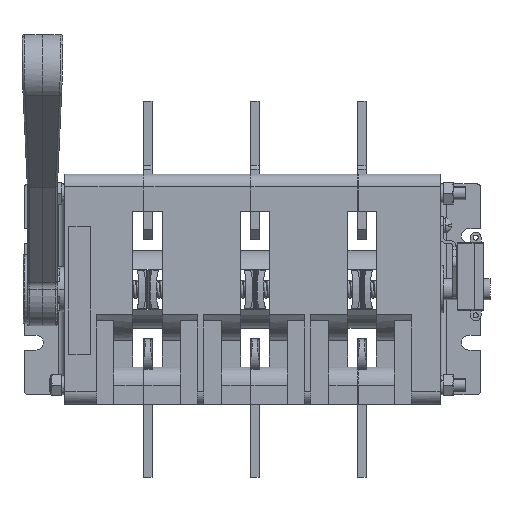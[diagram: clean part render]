
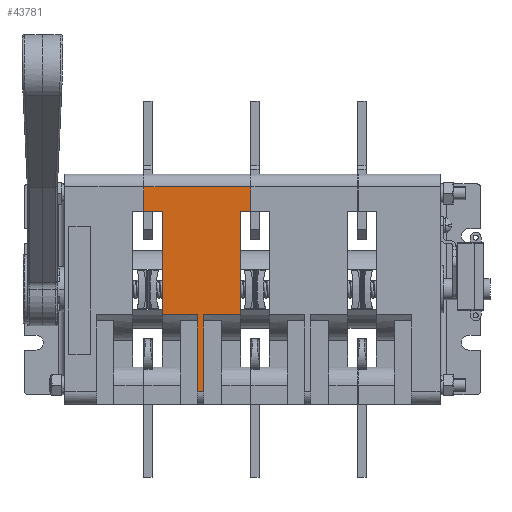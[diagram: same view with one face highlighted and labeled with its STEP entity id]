
A CAD part, front view. The second image highlights one B-rep face of the part: STEP entity #43781.
In plain terms, the highlighted planar face has unit normal (0, -1, 0) as drawn and (0, 1, 0) by its records, which use the part's own axes.
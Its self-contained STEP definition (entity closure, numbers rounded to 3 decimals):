
#357 = VERTEX_POINT ( 'NONE', #14577 ) ;
#725 = CARTESIAN_POINT ( 'NONE',  ( 36.5, 24., -8.5 ) ) ;
#1628 = EDGE_CURVE ( 'NONE', #27581, #7520, #3370, .T. ) ;
#1674 = VECTOR ( 'NONE', #21524, 1000. ) ;
#1944 = VERTEX_POINT ( 'NONE', #23049 ) ;
#1991 = CARTESIAN_POINT ( 'NONE',  ( -48., 24., 19.5 ) ) ;
#3068 = VERTEX_POINT ( 'NONE', #47064 ) ;
#3370 = LINE ( 'NONE', #21072, #38662 ) ;
#5719 = ORIENTED_EDGE ( 'NONE', *, *, #28771, .F. ) ;
#6962 = VERTEX_POINT ( 'NONE', #36617 ) ;
#7139 = VERTEX_POINT ( 'NONE', #26369 ) ;
#7470 = CARTESIAN_POINT ( 'NONE',  ( 36.5, 24., 0. ) ) ;
#7520 = VERTEX_POINT ( 'NONE', #50838 ) ;
#8930 = LINE ( 'NONE', #38512, #52870 ) ;
#9831 = VERTEX_POINT ( 'NONE', #40922 ) ;
#10416 = DIRECTION ( 'NONE',  ( 0., 0., 1. ) ) ;
#10523 = EDGE_CURVE ( 'NONE', #357, #19052, #41750, .T. ) ;
#10716 = ORIENTED_EDGE ( 'NONE', *, *, #42778, .T. ) ;
#10963 = ORIENTED_EDGE ( 'NONE', *, *, #35267, .F. ) ;
#11852 = ORIENTED_EDGE ( 'NONE', *, *, #40776, .F. ) ;
#12071 = CARTESIAN_POINT ( 'NONE',  ( -48., 24., 16.5 ) ) ;
#12755 = DIRECTION ( 'NONE',  ( 0., -1., 0. ) ) ;
#13945 = DIRECTION ( 'NONE',  ( 0., 0., -1. ) ) ;
#14116 = CARTESIAN_POINT ( 'NONE',  ( 48., 24., -8.5 ) ) ;
#14577 = CARTESIAN_POINT ( 'NONE',  ( 48., 24., 41.5 ) ) ;
#15336 = ORIENTED_EDGE ( 'NONE', *, *, #20229, .F. ) ;
#16330 = AXIS2_PLACEMENT_3D ( 'NONE', #42338, #12755, #42524 ) ;
#16571 = VECTOR ( 'NONE', #22706, 1000. ) ;
#16659 = VECTOR ( 'NONE', #13945, 1000. ) ;
#17053 = EDGE_CURVE ( 'NONE', #6962, #3068, #45471, .T. ) ;
#17176 = DIRECTION ( 'NONE',  ( 0., 0., -1. ) ) ;
#17340 = VECTOR ( 'NONE', #37245, 1000. ) ;
#18844 = DIRECTION ( 'NONE',  ( 1., 0., 0. ) ) ;
#19052 = VERTEX_POINT ( 'NONE', #14116 ) ;
#19765 = VECTOR ( 'NONE', #27261, 1000. ) ;
#20229 = EDGE_CURVE ( 'NONE', #48807, #6962, #49218, .T. ) ;
#20467 = DIRECTION ( 'NONE',  ( -1., 0., 0. ) ) ;
#20650 = LINE ( 'NONE', #7470, #17340 ) ;
#20876 = ORIENTED_EDGE ( 'NONE', *, *, #53201, .F. ) ;
#21072 = CARTESIAN_POINT ( 'NONE',  ( -48., 24., 19.5 ) ) ;
#21524 = DIRECTION ( 'NONE',  ( -1., 0., 0. ) ) ;
#21749 = LINE ( 'NONE', #48911, #34388 ) ;
#21972 = CARTESIAN_POINT ( 'NONE',  ( -12., 24., 49.423 ) ) ;
#22706 = DIRECTION ( 'NONE',  ( 0., 0., -1. ) ) ;
#23049 = CARTESIAN_POINT ( 'NONE',  ( -12., 24., 19.5 ) ) ;
#25409 = PLANE ( 'NONE',  #16330 ) ;
#26331 = EDGE_CURVE ( 'NONE', #39178, #9831, #20650, .T. ) ;
#26369 = CARTESIAN_POINT ( 'NONE',  ( -12., 24., 16.5 ) ) ;
#27261 = DIRECTION ( 'NONE',  ( 0., 0., -1. ) ) ;
#27581 = VERTEX_POINT ( 'NONE', #1991 ) ;
#28745 = VERTEX_POINT ( 'NONE', #725 ) ;
#28771 = EDGE_CURVE ( 'NONE', #1944, #27581, #54860, .T. ) ;
#28802 = ORIENTED_EDGE ( 'NONE', *, *, #38851, .T. ) ;
#29582 = ORIENTED_EDGE ( 'NONE', *, *, #48268, .T. ) ;
#30496 = LINE ( 'NONE', #55038, #54431 ) ;
#31642 = CARTESIAN_POINT ( 'NONE',  ( 48., 24., -8.5 ) ) ;
#31864 = ORIENTED_EDGE ( 'NONE', *, *, #17053, .F. ) ;
#34210 = DIRECTION ( 'NONE',  ( -1., 0., 0. ) ) ;
#34388 = VECTOR ( 'NONE', #10416, 1000. ) ;
#34557 = ORIENTED_EDGE ( 'NONE', *, *, #26331, .T. ) ;
#35257 = VECTOR ( 'NONE', #18844, 1000. ) ;
#35267 = EDGE_CURVE ( 'NONE', #28745, #19052, #52568, .T. ) ;
#35297 = CARTESIAN_POINT ( 'NONE',  ( 36.5, 24., 41.5 ) ) ;
#35490 = LINE ( 'NONE', #12071, #39524 ) ;
#36617 = CARTESIAN_POINT ( 'NONE',  ( 36.5, 24., 37. ) ) ;
#37245 = DIRECTION ( 'NONE',  ( -1., 0., 0. ) ) ;
#38512 = CARTESIAN_POINT ( 'NONE',  ( 36.5, 24., 41.5 ) ) ;
#38662 = VECTOR ( 'NONE', #17176, 1000. ) ;
#38727 = ORIENTED_EDGE ( 'NONE', *, *, #1628, .F. ) ;
#38851 = EDGE_CURVE ( 'NONE', #7139, #7520, #35490, .T. ) ;
#39011 = ORIENTED_EDGE ( 'NONE', *, *, #10523, .T. ) ;
#39178 = VERTEX_POINT ( 'NONE', #42538 ) ;
#39344 = FACE_OUTER_BOUND ( 'NONE', #40517, .T. ) ;
#39524 = VECTOR ( 'NONE', #20467, 1000. ) ;
#40517 = EDGE_LOOP ( 'NONE', ( #5719, #20876, #31864, #15336, #11852, #39011, #10963, #29582, #34557, #10716, #28802, #38727 ) ) ;
#40776 = EDGE_CURVE ( 'NONE', #357, #48807, #8930, .T. ) ;
#40922 = CARTESIAN_POINT ( 'NONE',  ( -12., 24., 0. ) ) ;
#41750 = LINE ( 'NONE', #52541, #19765 ) ;
#42338 = CARTESIAN_POINT ( 'NONE',  ( -48., 24., 19.5 ) ) ;
#42524 = DIRECTION ( 'NONE',  ( 1., 0., 0. ) ) ;
#42538 = CARTESIAN_POINT ( 'NONE',  ( 36.5, 24., 0. ) ) ;
#42778 = EDGE_CURVE ( 'NONE', #9831, #7139, #21749, .T. ) ;
#43781 = ADVANCED_FACE ( 'NONE', ( #39344 ), #25409, .F. ) ;
#45129 = LINE ( 'NONE', #21972, #16571 ) ;
#45471 = LINE ( 'NONE', #50375, #46150 ) ;
#46150 = VECTOR ( 'NONE', #54297, 1000. ) ;
#46995 = CARTESIAN_POINT ( 'NONE',  ( -48., 24., 19.5 ) ) ;
#47064 = CARTESIAN_POINT ( 'NONE',  ( -12., 24., 37. ) ) ;
#48268 = EDGE_CURVE ( 'NONE', #28745, #39178, #30496, .T. ) ;
#48807 = VERTEX_POINT ( 'NONE', #48836 ) ;
#48836 = CARTESIAN_POINT ( 'NONE',  ( 36.5, 24., 41.5 ) ) ;
#48911 = CARTESIAN_POINT ( 'NONE',  ( -12., 24., -12.423 ) ) ;
#49218 = LINE ( 'NONE', #35297, #16659 ) ;
#50375 = CARTESIAN_POINT ( 'NONE',  ( 36.5, 24., 37. ) ) ;
#50838 = CARTESIAN_POINT ( 'NONE',  ( -48., 24., 16.5 ) ) ;
#52541 = CARTESIAN_POINT ( 'NONE',  ( 48., 24., 19.5 ) ) ;
#52568 = LINE ( 'NONE', #31642, #35257 ) ;
#52870 = VECTOR ( 'NONE', #34210, 1000. ) ;
#53201 = EDGE_CURVE ( 'NONE', #3068, #1944, #45129, .T. ) ;
#54297 = DIRECTION ( 'NONE',  ( -1., 0., 0. ) ) ;
#54431 = VECTOR ( 'NONE', #54655, 1000. ) ;
#54655 = DIRECTION ( 'NONE',  ( 0., 0., 1. ) ) ;
#54860 = LINE ( 'NONE', #46995, #1674 ) ;
#55038 = CARTESIAN_POINT ( 'NONE',  ( 36.5, 24., -8.5 ) ) ;
